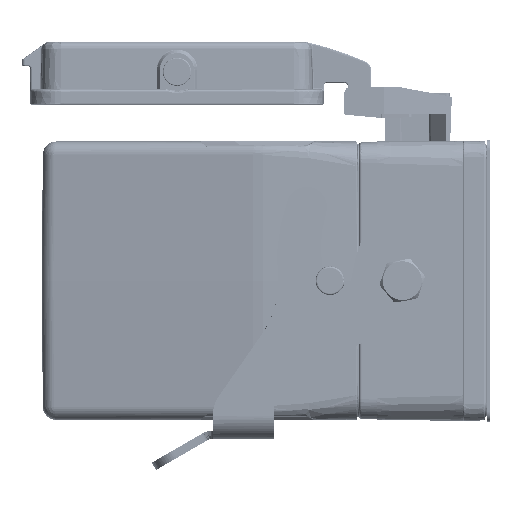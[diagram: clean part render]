
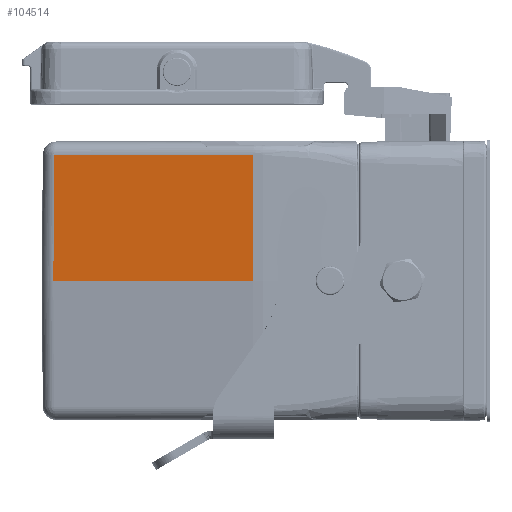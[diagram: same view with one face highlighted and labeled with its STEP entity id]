
A CAD part, left-side view. The second image highlights one B-rep face of the part: STEP entity #104514.
In plain terms, the highlighted planar face has unit normal (-0.99, 0.139, 0.009).
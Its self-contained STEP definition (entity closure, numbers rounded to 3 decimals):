
#856 = VERTEX_POINT ( 'NONE', #107199 ) ;
#17572 = CARTESIAN_POINT ( 'NONE',  ( -38.484, 43.557, 0. ) ) ;
#17799 = FACE_OUTER_BOUND ( 'NONE', #92546, .T. ) ;
#18224 = ORIENTED_EDGE ( 'NONE', *, *, #77661, .F. ) ;
#20541 = VECTOR ( 'NONE', #201166, 1000. ) ;
#24828 = CARTESIAN_POINT ( 'NONE',  ( -46.48, -15.676, 37.285 ) ) ;
#39964 = CARTESIAN_POINT ( 'NONE',  ( -34.698, 68.154, 37.285 ) ) ;
#50936 = AXIS2_PLACEMENT_3D ( 'NONE', #99410, #206409, #226515 ) ;
#77448 = DIRECTION ( 'NONE',  ( -0.008, 0.009, -1. ) ) ;
#77540 = EDGE_CURVE ( 'NONE', #856, #135875, #135059, .T. ) ;
#77661 = EDGE_CURVE ( 'NONE', #856, #84879, #243462, .T. ) ;
#84879 = VERTEX_POINT ( 'NONE', #24828 ) ;
#92524 = VECTOR ( 'NONE', #77448, 1000. ) ;
#92546 = EDGE_LOOP ( 'NONE', ( #262503, #252852, #136457, #18224 ) ) ;
#99410 = CARTESIAN_POINT ( 'NONE',  ( -38., 47., 0. ) ) ;
#104514 = ADVANCED_FACE ( 'NONE', ( #17799 ), #222554, .T. ) ;
#107199 = CARTESIAN_POINT ( 'NONE',  ( -38.201, 43.231, 37.285 ) ) ;
#122236 = CARTESIAN_POINT ( 'NONE',  ( -46.805, -15.653, 0. ) ) ;
#123551 = CARTESIAN_POINT ( 'NONE',  ( -38., 47., 0. ) ) ;
#135059 = LINE ( 'NONE', #260975, #92524 ) ;
#135875 = VERTEX_POINT ( 'NONE', #17572 ) ;
#136457 = ORIENTED_EDGE ( 'NONE', *, *, #257554, .F. ) ;
#140193 = LINE ( 'NONE', #158950, #155557 ) ;
#148371 = VERTEX_POINT ( 'NONE', #122236 ) ;
#155557 = VECTOR ( 'NONE', #221849, 1000. ) ;
#158950 = CARTESIAN_POINT ( 'NONE',  ( -46.805, -15.653, -0.001 ) ) ;
#201166 = DIRECTION ( 'NONE',  ( -0.139, -0.99, 0. ) ) ;
#201855 = DIRECTION ( 'NONE',  ( -0.139, -0.99, 0. ) ) ;
#206409 = DIRECTION ( 'NONE',  ( -0.99, 0.139, 0.009 ) ) ;
#216677 = EDGE_CURVE ( 'NONE', #135875, #148371, #222609, .T. ) ;
#221849 = DIRECTION ( 'NONE',  ( -0.009, 0.001, -1. ) ) ;
#222554 = PLANE ( 'NONE',  #50936 ) ;
#222609 = LINE ( 'NONE', #123551, #20541 ) ;
#226515 = DIRECTION ( 'NONE',  ( 0.009, 0., 1. ) ) ;
#237996 = VECTOR ( 'NONE', #201855, 1000. ) ;
#243462 = LINE ( 'NONE', #39964, #237996 ) ;
#252852 = ORIENTED_EDGE ( 'NONE', *, *, #216677, .T. ) ;
#257554 = EDGE_CURVE ( 'NONE', #84879, #148371, #140193, .T. ) ;
#260975 = CARTESIAN_POINT ( 'NONE',  ( -38.201, 43.231, 37.285 ) ) ;
#262503 = ORIENTED_EDGE ( 'NONE', *, *, #77540, .T. ) ;
